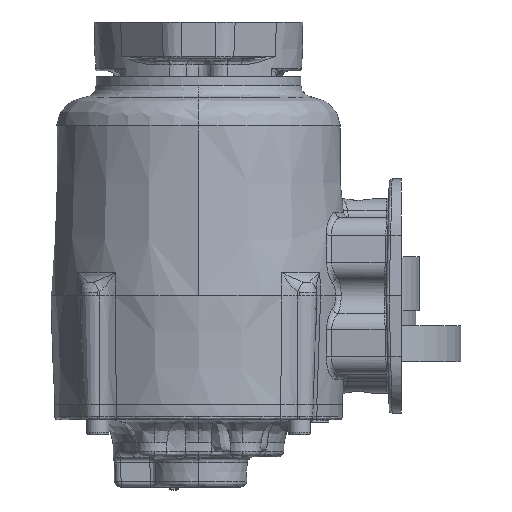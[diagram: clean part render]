
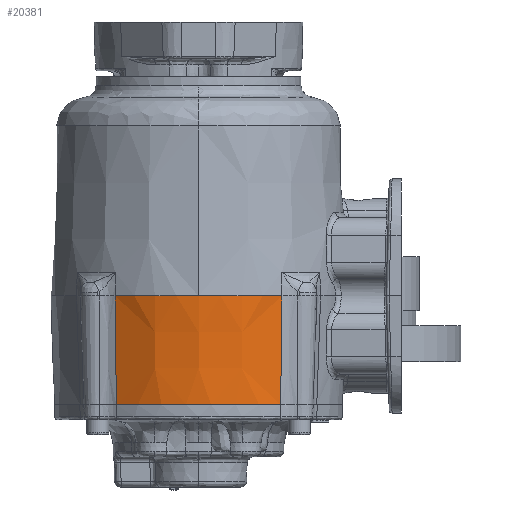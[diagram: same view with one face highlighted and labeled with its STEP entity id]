
A CAD part, left-side view. The second image highlights one B-rep face of the part: STEP entity #20381.
In plain terms, the highlighted conical face has half-angle 2 degrees and reference radius 78.232 mm.
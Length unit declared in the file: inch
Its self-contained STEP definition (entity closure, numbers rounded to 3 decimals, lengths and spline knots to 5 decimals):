
#1702 = EDGE_CURVE ( 'NONE', #5211, #76780, #111979, .T. ) ;
#1705 = EDGE_CURVE ( 'NONE', #76782, #76777, #111975, .T. ) ;
#1761 = EDGE_CURVE ( 'NONE', #5216, #76777, #48555, .T. ) ;
#1777 = EDGE_CURVE ( 'NONE', #76782, #76780, #48550, .T. ) ;
#5211 = VERTEX_POINT ( 'NONE', #123252 ) ;
#5216 = VERTEX_POINT ( 'NONE', #123254 ) ;
#20381 = ADVANCED_FACE ( 'NONE', ( #116177 ), #87059, .T. ) ;
#22670 = ORIENTED_EDGE ( 'NONE', *, *, #143647, .F. ) ;
#22671 = ORIENTED_EDGE ( 'NONE', *, *, #1761, .T. ) ;
#22672 = ORIENTED_EDGE ( 'NONE', *, *, #1705, .F. ) ;
#22673 = ORIENTED_EDGE ( 'NONE', *, *, #1777, .T. ) ;
#22674 = ORIENTED_EDGE ( 'NONE', *, *, #1702, .F. ) ;
#46566 = CARTESIAN_POINT ( 'NONE',  ( -0.32707, 0.03727, -0.86956 ) ) ;
#46567 = DIRECTION ( 'NONE',  ( 0., 0., 1. ) ) ;
#46568 = DIRECTION ( 'NONE',  ( 1., 0., 0. ) ) ;
#46569 = CARTESIAN_POINT ( 'NONE',  ( -0.32707, 0.03727, -3.13406 ) ) ;
#46570 = DIRECTION ( 'NONE',  ( 0., 0., -1. ) ) ;
#46571 = DIRECTION ( 'NONE',  ( 1., 0., 0. ) ) ;
#46630 = CARTESIAN_POINT ( 'NONE',  ( -2.81732, 1.75734, -2.4006 ) ) ;
#46638 = CARTESIAN_POINT ( 'NONE',  ( -2.84382, 1.76533, -1.64577 ) ) ;
#46648 = CARTESIAN_POINT ( 'NONE',  ( -2.87096, 1.77365, -0.86956 ) ) ;
#46649 = CARTESIAN_POINT ( 'NONE',  ( -2.79144, 1.7497, -3.13406 ) ) ;
#46666 = CARTESIAN_POINT ( 'NONE',  ( -2.79144, -1.67515, -3.13406 ) ) ;
#46671 = CARTESIAN_POINT ( 'NONE',  ( -2.81732, -1.6828, -2.4006 ) ) ;
#46682 = CARTESIAN_POINT ( 'NONE',  ( -2.84382, -1.69078, -1.64577 ) ) ;
#46683 = CARTESIAN_POINT ( 'NONE',  ( -2.87096, -1.6991, -0.86956 ) ) ;
#48550 = B_SPLINE_CURVE_WITH_KNOTS ( 'NONE', 3,
 ( #46666, #46671, #46682, #46683 ),
 .UNSPECIFIED., .F., .F.,
 ( 4, 4 ),
 ( 0., 1. ),
 .UNSPECIFIED. ) ;
#48555 = B_SPLINE_CURVE_WITH_KNOTS ( 'NONE', 3,
 ( #46648, #46638, #46630, #46649 ),
 .UNSPECIFIED., .F., .F.,
 ( 4, 4 ),
 ( 0., 1. ),
 .UNSPECIFIED. ) ;
#76777 = VERTEX_POINT ( 'NONE', #104665 ) ;
#76780 = VERTEX_POINT ( 'NONE', #104668 ) ;
#76782 = VERTEX_POINT ( 'NONE', #104670 ) ;
#77966 = CIRCLE ( 'NONE', #77970, 3.08 ) ;
#77970 = AXIS2_PLACEMENT_3D ( 'NONE', #121888, #121889, #121890 ) ;
#87059 = CONICAL_SURFACE ( 'NONE', #87060, 3.08, 0.035 ) ;
#87060 = AXIS2_PLACEMENT_3D ( 'NONE', #116220, #116216, #116175 ) ;
#90222 = EDGE_LOOP ( 'NONE', ( #22670, #22671, #22672, #22673, #22674 ) ) ;
#104665 = CARTESIAN_POINT ( 'NONE',  ( -2.79144, 1.7497, -3.13406 ) ) ;
#104668 = CARTESIAN_POINT ( 'NONE',  ( -2.87096, -1.6991, -0.86956 ) ) ;
#104670 = CARTESIAN_POINT ( 'NONE',  ( -2.79144, -1.67515, -3.13406 ) ) ;
#111972 = AXIS2_PLACEMENT_3D ( 'NONE', #46569, #46570, #46571 ) ;
#111974 = AXIS2_PLACEMENT_3D ( 'NONE', #46566, #46567, #46568 ) ;
#111975 = CIRCLE ( 'NONE', #111972, 3.00092 ) ;
#111979 = CIRCLE ( 'NONE', #111974, 3.08 ) ;
#116175 = DIRECTION ( 'NONE',  ( 1., 0., 0. ) ) ;
#116177 = FACE_OUTER_BOUND ( 'NONE', #90222, .T. ) ;
#116216 = DIRECTION ( 'NONE',  ( 0., 0., 1. ) ) ;
#116220 = CARTESIAN_POINT ( 'NONE',  ( -0.32707, 0.03727, -0.86956 ) ) ;
#121888 = CARTESIAN_POINT ( 'NONE',  ( -0.32707, 0.03727, -0.86956 ) ) ;
#121889 = DIRECTION ( 'NONE',  ( 0., 0., 1. ) ) ;
#121890 = DIRECTION ( 'NONE',  ( 1., 0., 0. ) ) ;
#123252 = CARTESIAN_POINT ( 'NONE',  ( -3.40707, 0.03727, -0.86956 ) ) ;
#123254 = CARTESIAN_POINT ( 'NONE',  ( -2.87096, 1.77365, -0.86956 ) ) ;
#143647 = EDGE_CURVE ( 'NONE', #5216, #5211, #77966, .T. ) ;
